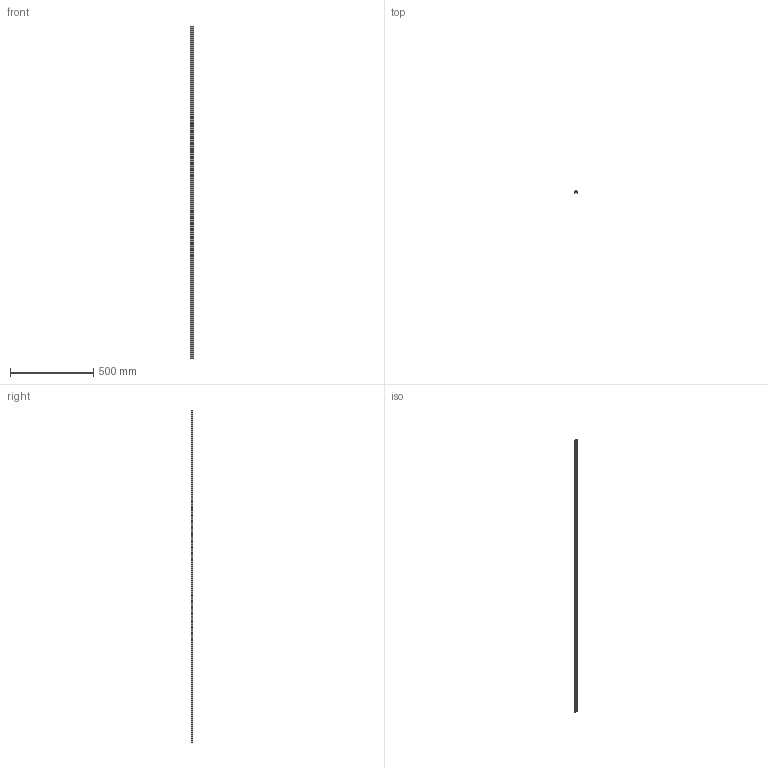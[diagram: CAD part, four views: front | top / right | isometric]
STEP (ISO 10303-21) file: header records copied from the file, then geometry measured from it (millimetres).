
FILE_DESCRIPTION(/* description */ ('PIVOT LED PROFILE-INNER '),/* implementation_level */ '2;1');
FILE_NAME(/* name */ 'D:\$Workspace\Designs\Różne\Brły 3D Glaxów_robocze\stp\PA-GLAXREG1-AL.stp',/* time_stamp */ '2017-08-22T12:04:18+02:00',/* author */ ('PiotrMz'),/* organization */ (''),/* preprocessor_version */ 'ST-DEVELOPER v16.1',/* originating_system */ 'Autodesk Inventor 2016',/* authorisation */ '');
FILE_SCHEMA (('AUTOMOTIVE_DESIGN { 1 0 10303 214 3 1 1 }'));
Length unit declared in the file: millimetre
Products named in the file (1): profil regulowany wew_uproszczony
Bounding box: 18.45 x 10.07 x 2000 mm (x, y, z)
Volume: 94131.8 mm3; surface area: 156669 mm2
Topology: 1 solids, 1 shells, 38 faces, 108 edges, 72 vertices
Faces by surface type: plane 26, cylinder 12
Entity records: 1260 total; most frequent: CARTESIAN_POINT 219, ORIENTED_EDGE 216, DIRECTION 210, EDGE_CURVE 108, LINE 84, VECTOR 84, VERTEX_POINT 72, AXIS2_PLACEMENT_3D 63
